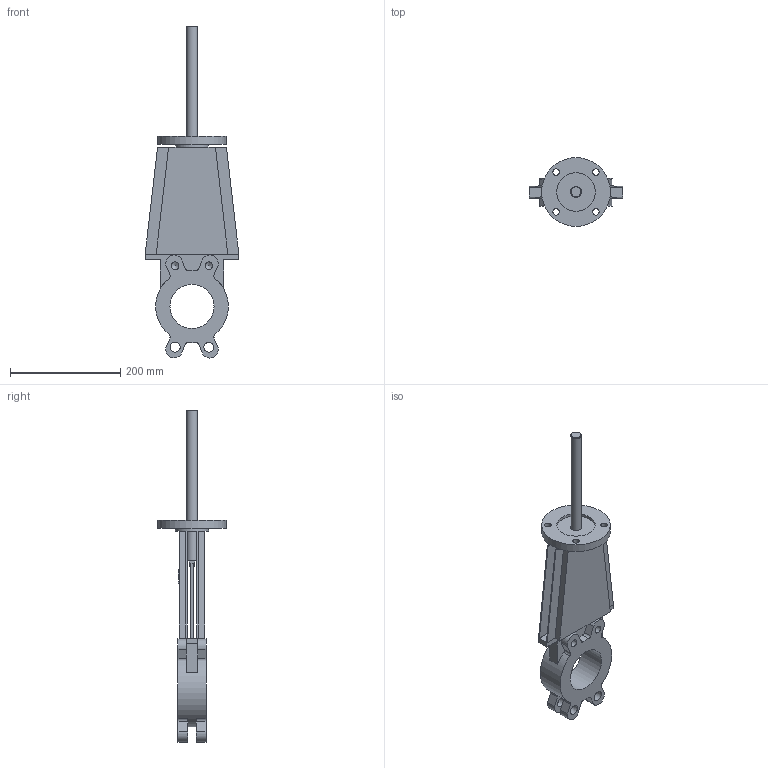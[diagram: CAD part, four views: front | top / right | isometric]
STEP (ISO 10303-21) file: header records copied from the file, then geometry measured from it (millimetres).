
FILE_DESCRIPTION(('STEP AP203'), '1');
FILE_NAME('K51GVA_DN80', '', ('UNSPECIFIED'), ('UNSPECIFIED'), 'ASCON STEP Converter 1.6', 'ASCON Math Kernel', '');
FILE_SCHEMA(('CONFIG_CONTROL_DESIGN'));
Length unit declared in the file: millimetre
Bounding box: 170 x 125 x 602.54 mm (x, y, z)
Volume: 1084468.7 mm3; surface area: 298696.8 mm2
Topology: 1 solids, 1 shells, 151 faces, 418 edges, 269 vertices
Faces by surface type: plane 94, cylinder 52, cone 5
Full cylindrical faces by diameter (mm): 12 x4, 13.835 x4, 18 x4, 20 x2, 60 x1, 70 x1, 80 x1, 125 x1
Entity records: 5958 total; most frequent: DIRECTION 824, CARTESIAN_POINT 808, ORIENTED_EDGE 782, EDGE_CURVE 391, AXIS2_PLACEMENT_3D 281, VERTEX_POINT 265, LINE 262, VECTOR 262
